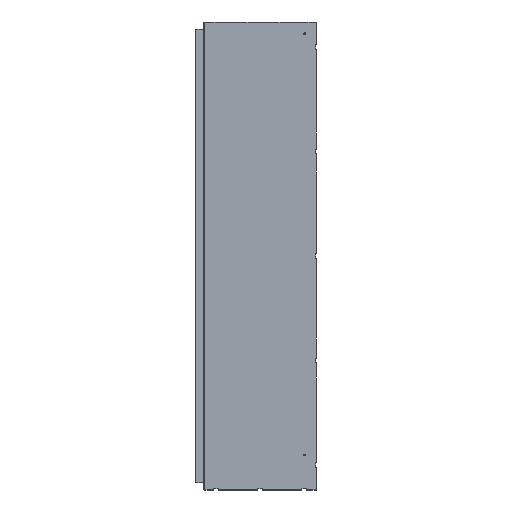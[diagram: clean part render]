
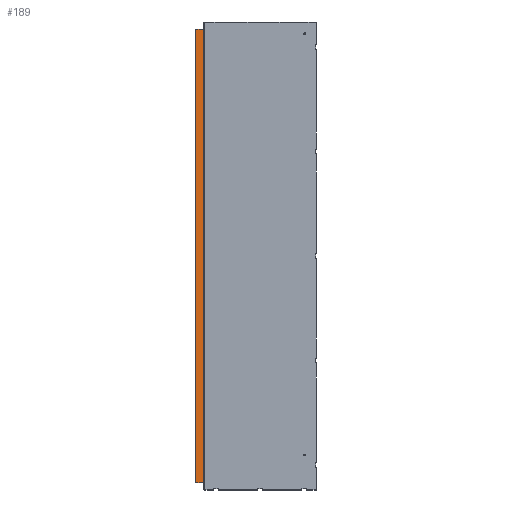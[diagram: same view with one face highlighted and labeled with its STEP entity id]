
A CAD part, top view. The second image highlights one B-rep face of the part: STEP entity #189.
In plain terms, the highlighted planar face has unit normal (0, 0, 1).
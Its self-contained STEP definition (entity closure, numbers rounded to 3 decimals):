
#189 = ADVANCED_FACE ( 'NONE', ( #2419 ), #1972, .F. ) ;
#322 = CARTESIAN_POINT ( 'NONE',  ( -276.75, 1984., 44. ) ) ;
#387 = VECTOR ( 'NONE', #550, 1000. ) ;
#550 = DIRECTION ( 'NONE',  ( -1., 0., 0. ) ) ;
#563 = CARTESIAN_POINT ( 'NONE',  ( -276.75, 31., 44. ) ) ;
#571 = LINE ( 'NONE', #1282, #1918 ) ;
#715 = VERTEX_POINT ( 'NONE', #1541 ) ;
#745 = EDGE_CURVE ( 'NONE', #1900, #715, #2217, .T. ) ;
#768 = ORIENTED_EDGE ( 'NONE', *, *, #745, .T. ) ;
#870 = CARTESIAN_POINT ( 'NONE',  ( 0., 0., 44. ) ) ;
#889 = EDGE_CURVE ( 'NONE', #2624, #2857, #2578, .T. ) ;
#1031 = EDGE_LOOP ( 'NONE', ( #1781, #2451, #2932, #768 ) ) ;
#1282 = CARTESIAN_POINT ( 'NONE',  ( -276.75, 31., 44. ) ) ;
#1426 = EDGE_CURVE ( 'NONE', #2624, #715, #1804, .T. ) ;
#1463 = CARTESIAN_POINT ( 'NONE',  ( -276.75, 1984., 44. ) ) ;
#1541 = CARTESIAN_POINT ( 'NONE',  ( -243.75, 31., 44. ) ) ;
#1781 = ORIENTED_EDGE ( 'NONE', *, *, #1426, .F. ) ;
#1804 = LINE ( 'NONE', #2279, #2899 ) ;
#1900 = VERTEX_POINT ( 'NONE', #563 ) ;
#1918 = VECTOR ( 'NONE', #2355, 1000. ) ;
#1972 = PLANE ( 'NONE',  #2748 ) ;
#2029 = DIRECTION ( 'NONE',  ( -1., 0., 0. ) ) ;
#2217 = LINE ( 'NONE', #2260, #2849 ) ;
#2260 = CARTESIAN_POINT ( 'NONE',  ( -241.75, 31., 44. ) ) ;
#2278 = DIRECTION ( 'NONE',  ( 1., 0., 0. ) ) ;
#2279 = CARTESIAN_POINT ( 'NONE',  ( -243.75, 0., 44. ) ) ;
#2355 = DIRECTION ( 'NONE',  ( 0., -1., 0. ) ) ;
#2419 = FACE_OUTER_BOUND ( 'NONE', #1031, .T. ) ;
#2436 = DIRECTION ( 'NONE',  ( 0., 0., -1. ) ) ;
#2451 = ORIENTED_EDGE ( 'NONE', *, *, #889, .T. ) ;
#2578 = LINE ( 'NONE', #322, #387 ) ;
#2624 = VERTEX_POINT ( 'NONE', #2810 ) ;
#2735 = DIRECTION ( 'NONE',  ( 0., -1., 0. ) ) ;
#2748 = AXIS2_PLACEMENT_3D ( 'NONE', #870, #2436, #2029 ) ;
#2792 = EDGE_CURVE ( 'NONE', #2857, #1900, #571, .T. ) ;
#2810 = CARTESIAN_POINT ( 'NONE',  ( -243.75, 1984., 44. ) ) ;
#2849 = VECTOR ( 'NONE', #2278, 1000. ) ;
#2857 = VERTEX_POINT ( 'NONE', #1463 ) ;
#2899 = VECTOR ( 'NONE', #2735, 1000. ) ;
#2932 = ORIENTED_EDGE ( 'NONE', *, *, #2792, .T. ) ;
